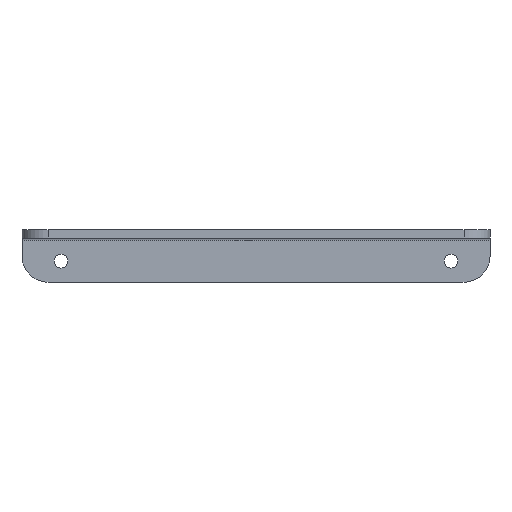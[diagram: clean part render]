
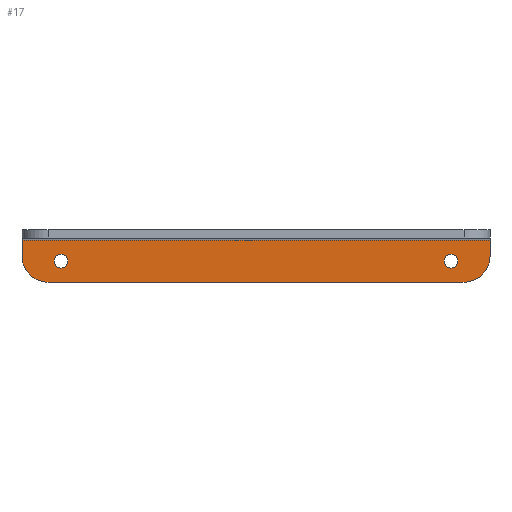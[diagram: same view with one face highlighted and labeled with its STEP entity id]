
A CAD part, front view. The second image highlights one B-rep face of the part: STEP entity #17.
In plain terms, the highlighted planar face has unit normal (0, -1, 0).
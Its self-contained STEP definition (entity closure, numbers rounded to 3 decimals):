
#17 = ADVANCED_FACE ( 'NONE', ( #1018, #423, #475 ), #418, .F. ) ;
#19 = VECTOR ( 'NONE', #1168, 1000. ) ;
#21 = EDGE_LOOP ( 'NONE', ( #2283, #1986 ) ) ;
#23 = DIRECTION ( 'NONE',  ( 0., 0., 1. ) ) ;
#29 = LINE ( 'NONE', #1531, #19 ) ;
#40 = CARTESIAN_POINT ( 'NONE',  ( 90., 62., -7. ) ) ;
#67 = ORIENTED_EDGE ( 'NONE', *, *, #1516, .F. ) ;
#70 = ORIENTED_EDGE ( 'NONE', *, *, #1431, .T. ) ;
#81 = CARTESIAN_POINT ( 'NONE',  ( 90., 62., -0.762 ) ) ;
#107 = VERTEX_POINT ( 'NONE', #1950 ) ;
#128 = DIRECTION ( 'NONE',  ( 0., 0., -1. ) ) ;
#133 = CARTESIAN_POINT ( 'NONE',  ( -80., 62., -17. ) ) ;
#146 = ORIENTED_EDGE ( 'NONE', *, *, #1448, .F. ) ;
#167 = AXIS2_PLACEMENT_3D ( 'NONE', #476, #1706, #652 ) ;
#173 = CARTESIAN_POINT ( 'NONE',  ( 75., 62., -8.881 ) ) ;
#178 = DIRECTION ( 'NONE',  ( 0., -1., 0. ) ) ;
#220 = ORIENTED_EDGE ( 'NONE', *, *, #367, .T. ) ;
#232 = CARTESIAN_POINT ( 'NONE',  ( -80., 62., -7. ) ) ;
#237 = CIRCLE ( 'NONE', #524, 10. ) ;
#239 = CARTESIAN_POINT ( 'NONE',  ( 90., 62., -17. ) ) ;
#246 = DIRECTION ( 'NONE',  ( 0., -1., 0. ) ) ;
#247 = AXIS2_PLACEMENT_3D ( 'NONE', #398, #1640, #590 ) ;
#281 = CIRCLE ( 'NONE', #247, 2.65 ) ;
#329 = VERTEX_POINT ( 'NONE', #2175 ) ;
#364 = CIRCLE ( 'NONE', #2084, 2.65 ) ;
#367 = EDGE_CURVE ( 'NONE', #707, #107, #1580, .T. ) ;
#388 = DIRECTION ( 'NONE',  ( 0., 0., -1. ) ) ;
#398 = CARTESIAN_POINT ( 'NONE',  ( 75., 62., -8.881 ) ) ;
#407 = AXIS2_PLACEMENT_3D ( 'NONE', #173, #1473, #388 ) ;
#418 = PLANE ( 'NONE',  #945 ) ;
#423 = FACE_BOUND ( 'NONE', #21, .T. ) ;
#441 = DIRECTION ( 'NONE',  ( 0., 0., 1. ) ) ;
#463 = AXIS2_PLACEMENT_3D ( 'NONE', #232, #1513, #441 ) ;
#472 = EDGE_LOOP ( 'NONE', ( #1007, #67 ) ) ;
#475 = FACE_OUTER_BOUND ( 'NONE', #2275, .T. ) ;
#476 = CARTESIAN_POINT ( 'NONE',  ( -75., 62., -8.881 ) ) ;
#524 = AXIS2_PLACEMENT_3D ( 'NONE', #1344, #246, #1526 ) ;
#555 = CARTESIAN_POINT ( 'NONE',  ( 80., 62., -17. ) ) ;
#576 = EDGE_CURVE ( 'NONE', #107, #1297, #29, .T. ) ;
#590 = DIRECTION ( 'NONE',  ( 0., 0., -1. ) ) ;
#652 = DIRECTION ( 'NONE',  ( 0., 0., -1. ) ) ;
#707 = VERTEX_POINT ( 'NONE', #1725 ) ;
#945 = AXIS2_PLACEMENT_3D ( 'NONE', #2239, #1124, #23 ) ;
#1007 = ORIENTED_EDGE ( 'NONE', *, *, #1787, .F. ) ;
#1011 = CIRCLE ( 'NONE', #167, 2.65 ) ;
#1018 = FACE_BOUND ( 'NONE', #472, .T. ) ;
#1023 = CIRCLE ( 'NONE', #407, 2.65 ) ;
#1040 = LINE ( 'NONE', #239, #1082 ) ;
#1082 = VECTOR ( 'NONE', #1152, 1000. ) ;
#1087 = CARTESIAN_POINT ( 'NONE',  ( -90., 62., -7. ) ) ;
#1124 = DIRECTION ( 'NONE',  ( 0., 1., 0. ) ) ;
#1152 = DIRECTION ( 'NONE',  ( -1., 0., 0. ) ) ;
#1168 = DIRECTION ( 'NONE',  ( 0., 0., -1. ) ) ;
#1198 = VERTEX_POINT ( 'NONE', #40 ) ;
#1247 = VERTEX_POINT ( 'NONE', #2162 ) ;
#1278 = CARTESIAN_POINT ( 'NONE',  ( -75., 62., -8.881 ) ) ;
#1297 = VERTEX_POINT ( 'NONE', #1087 ) ;
#1333 = EDGE_CURVE ( 'NONE', #329, #1247, #281, .T. ) ;
#1344 = CARTESIAN_POINT ( 'NONE',  ( 80., 62., -7. ) ) ;
#1421 = CARTESIAN_POINT ( 'NONE',  ( 90., 62., 0. ) ) ;
#1431 = EDGE_CURVE ( 'NONE', #1297, #1648, #2166, .T. ) ;
#1448 = EDGE_CURVE ( 'NONE', #1684, #1648, #1040, .T. ) ;
#1457 = VERTEX_POINT ( 'NONE', #1847 ) ;
#1460 = EDGE_CURVE ( 'NONE', #1684, #1198, #237, .T. ) ;
#1471 = ORIENTED_EDGE ( 'NONE', *, *, #576, .T. ) ;
#1473 = DIRECTION ( 'NONE',  ( 0., -1., 0. ) ) ;
#1477 = DIRECTION ( 'NONE',  ( 0., 0., -1. ) ) ;
#1513 = DIRECTION ( 'NONE',  ( 0., -1., 0. ) ) ;
#1516 = EDGE_CURVE ( 'NONE', #1457, #1918, #1011, .T. ) ;
#1526 = DIRECTION ( 'NONE',  ( 0., 0., 1. ) ) ;
#1531 = CARTESIAN_POINT ( 'NONE',  ( -90., 62., 0. ) ) ;
#1580 = LINE ( 'NONE', #81, #1809 ) ;
#1640 = DIRECTION ( 'NONE',  ( 0., -1., 0. ) ) ;
#1648 = VERTEX_POINT ( 'NONE', #133 ) ;
#1684 = VERTEX_POINT ( 'NONE', #555 ) ;
#1706 = DIRECTION ( 'NONE',  ( 0., -1., 0. ) ) ;
#1708 = DIRECTION ( 'NONE',  ( -1., 0., 0. ) ) ;
#1725 = CARTESIAN_POINT ( 'NONE',  ( 90., 62., -0.762 ) ) ;
#1769 = EDGE_CURVE ( 'NONE', #1247, #329, #1023, .T. ) ;
#1787 = EDGE_CURVE ( 'NONE', #1918, #1457, #364, .T. ) ;
#1809 = VECTOR ( 'NONE', #1708, 1000. ) ;
#1847 = CARTESIAN_POINT ( 'NONE',  ( -75., 62., -6.231 ) ) ;
#1918 = VERTEX_POINT ( 'NONE', #2171 ) ;
#1950 = CARTESIAN_POINT ( 'NONE',  ( -90., 62., -0.762 ) ) ;
#1986 = ORIENTED_EDGE ( 'NONE', *, *, #1769, .F. ) ;
#2001 = LINE ( 'NONE', #1421, #2081 ) ;
#2031 = ORIENTED_EDGE ( 'NONE', *, *, #1460, .T. ) ;
#2081 = VECTOR ( 'NONE', #128, 1000. ) ;
#2084 = AXIS2_PLACEMENT_3D ( 'NONE', #1278, #178, #1477 ) ;
#2162 = CARTESIAN_POINT ( 'NONE',  ( 75., 62., -6.231 ) ) ;
#2166 = CIRCLE ( 'NONE', #463, 10. ) ;
#2171 = CARTESIAN_POINT ( 'NONE',  ( -75., 62., -11.531 ) ) ;
#2175 = CARTESIAN_POINT ( 'NONE',  ( 75., 62., -11.531 ) ) ;
#2209 = ORIENTED_EDGE ( 'NONE', *, *, #2276, .F. ) ;
#2239 = CARTESIAN_POINT ( 'NONE',  ( 90., 62., 0. ) ) ;
#2275 = EDGE_LOOP ( 'NONE', ( #1471, #70, #146, #2031, #2209, #220 ) ) ;
#2276 = EDGE_CURVE ( 'NONE', #707, #1198, #2001, .T. ) ;
#2283 = ORIENTED_EDGE ( 'NONE', *, *, #1333, .F. ) ;
